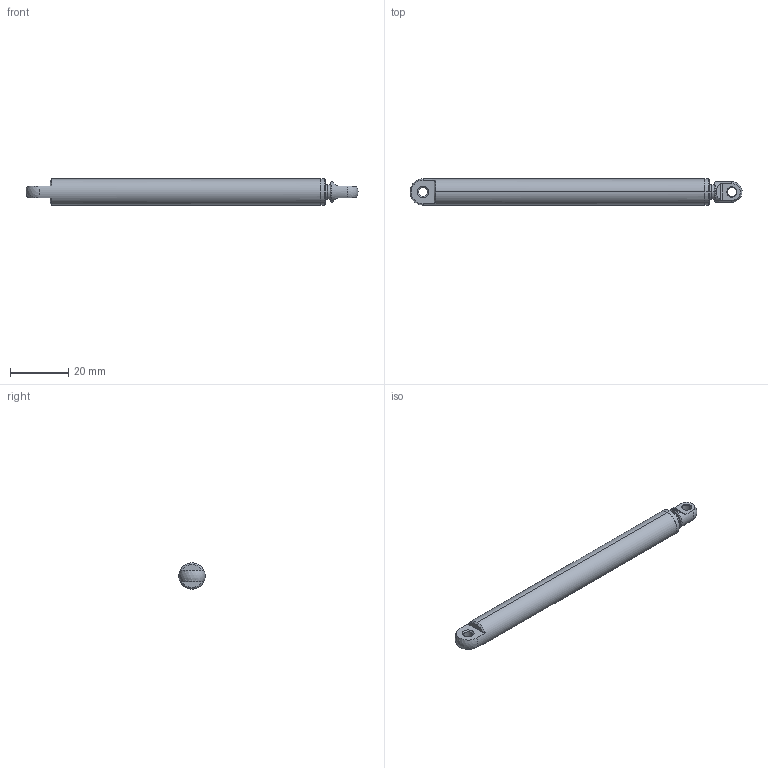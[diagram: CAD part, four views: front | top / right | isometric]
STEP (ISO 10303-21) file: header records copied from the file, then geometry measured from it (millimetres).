
FILE_DESCRIPTION((''),'2;1');
FILE_NAME('KT0905-60','2024-08-20T20:00:34',('qun.dong'),(''),'CREO PARAMETRIC BY PTC INC, 2019164','CREO PARAMETRIC BY PTC INC, 2019164','');
FILE_SCHEMA(('CONFIG_CONTROL_DESIGN','SHAPE_APPEARANCE_LAYERS_GROUPS'));
Length unit declared in the file: millimetre
Products named in the file (1): KT0905-60
Bounding box: 113.94 x 9 x 9 mm (x, y, z)
Volume: 6463.8 mm3; surface area: 3538.5 mm2
Topology: 1 solids, 4 shells, 113 faces, 295 edges, 186 vertices
Faces by surface type: cylinder 57, cone 29, plane 20, bspline 4, sphere 3
Entity records: 7284 total; most frequent: CARTESIAN_POINT 3621, ORIENTED_EDGE 576, DIRECTION 511, COLOUR_RGB 313, EDGE_CURVE 289, AXIS2_PLACEMENT_3D 206, VERTEX_POINT 186, EDGE_LOOP 124
